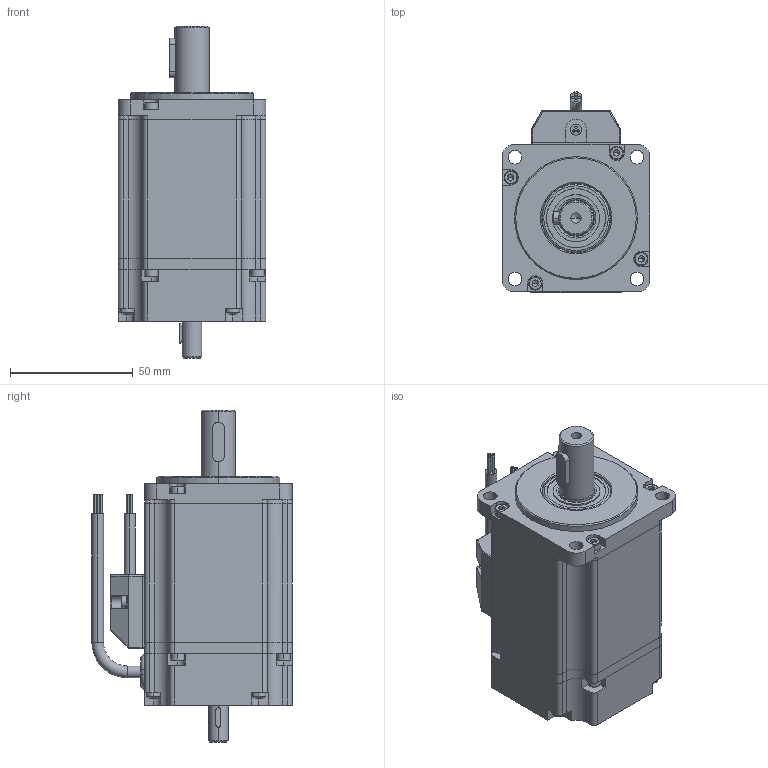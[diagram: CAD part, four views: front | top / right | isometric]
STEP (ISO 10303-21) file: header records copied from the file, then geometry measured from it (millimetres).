
FILE_DESCRIPTION (( 'STEP AP214' ), '1' );
FILE_NAME ('BLF60D-020 - 200W dual shaft.STEP', '2024-09-11T18:12:10', ( '' ), ( '' ), 'SwSTEP 2.0', 'SolidWorks 2020', '' );
FILE_SCHEMA (( 'AUTOMOTIVE_DESIGN' ));
Length unit declared in the file: millimetre
Products named in the file (5): BLF60D-0X0 - X00W D-S shaft_BLF60D-020-200W Dual shaft; pan cross head_am_B18.6.7M - M3 x 0.5 x 20 Type I Cross Recessed PHMS --20N; socket head cap screw_am_B18.3.1M - 3 x 0.5 x 8 Hex SHCS -- 8SHX; BLF60D-020 - 200W dual shaft; socket head cap screw_am_B18.3.1M - 2.5 x 0.45 x 10 Hex SHCS -- 10SHX
Assembly tree (15 placements, depth 2):
  BLF60D-020 - 200W dual shaft
    BLF60D-0X0 - X00W D-S shaft_BLF60D-020-200W Dual shaft
    socket head cap screw_am_B18.3.1M - 3 x 0.5 x 8 Hex SHCS -- 8SHX  x8
    socket head cap screw_am_B18.3.1M - 2.5 x 0.45 x 10 Hex SHCS -- 10SHX  x2
    pan cross head_am_B18.6.7M - M3 x 0.5 x 20 Type I Cross Recessed PHMS --20N  x4
Bounding box: 60 x 81.42 x 135 mm (x, y, z)
Volume: 316267.4 mm3; surface area: 38774.6 mm2
Topology: 15 solids, 15 shells, 1725 faces, 4328 edges, 2647 vertices
Faces by surface type: cone 738, cylinder 560, plane 366, torus 39, sphere 14, bspline 8
Entity records: 20633 total; most frequent: CARTESIAN_POINT 4060, DIRECTION 3683, ORIENTED_EDGE 3312, EDGE_CURVE 1656, AXIS2_PLACEMENT_3D 1444, VERTEX_POINT 1023, LINE 795, VECTOR 795
